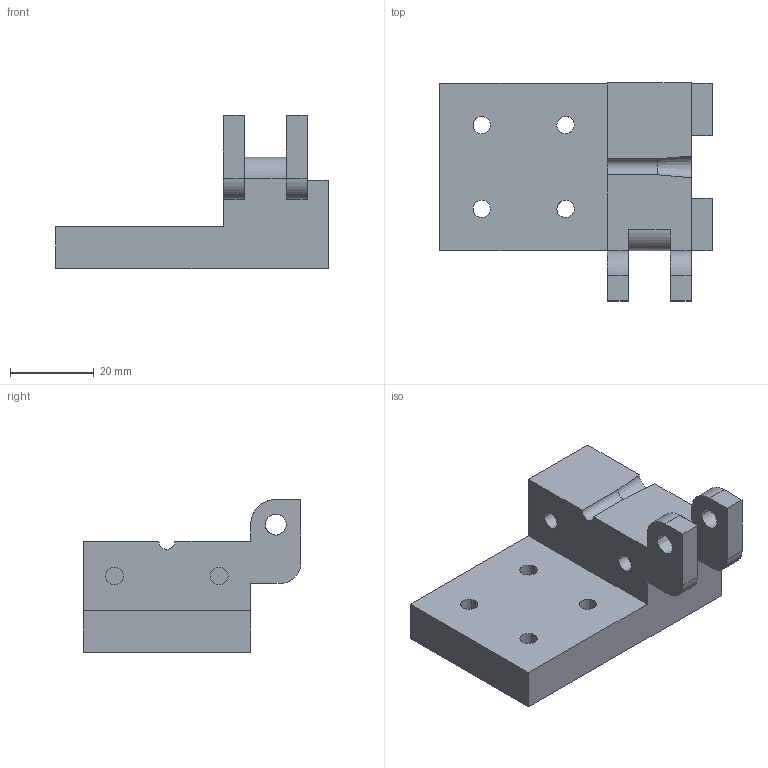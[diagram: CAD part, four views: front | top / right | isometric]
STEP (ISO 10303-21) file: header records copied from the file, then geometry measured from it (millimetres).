
FILE_DESCRIPTION(('CATIA V5 STEP Exchange'),'2;1');
FILE_NAME('C:\Users\hh\Desktop\2.0直通-三通插管治具图纸\TAT0010041-001.stp','2024-07-22T05:15:19+00:00',('none'),('none'),'CATIA Version 5 Release 21 GA (IN-10)','CATIA V5 STEP AP214','none');
FILE_SCHEMA(('AUTOMOTIVE_DESIGN { 1 0 10303 214 1 1 1 1 }'));
Length unit declared in the file: millimetre
Products named in the file (1): 下压块
Bounding box: 65 x 52 x 36.5 mm (x, y, z)
Volume: 39577.9 mm3; surface area: 11920.8 mm2
Topology: 1 solids, 1 shells, 56 faces, 156 edges, 104 vertices
Faces by surface type: plane 33, cylinder 21, cone 1, extrusion 1
Entity records: 1836 total; most frequent: CARTESIAN_POINT 431, ORIENTED_EDGE 312, DIRECTION 225, EDGE_CURVE 156, VECTOR 112, LINE 111, VERTEX_POINT 104, AXIS2_PLACEMENT_3D 75
